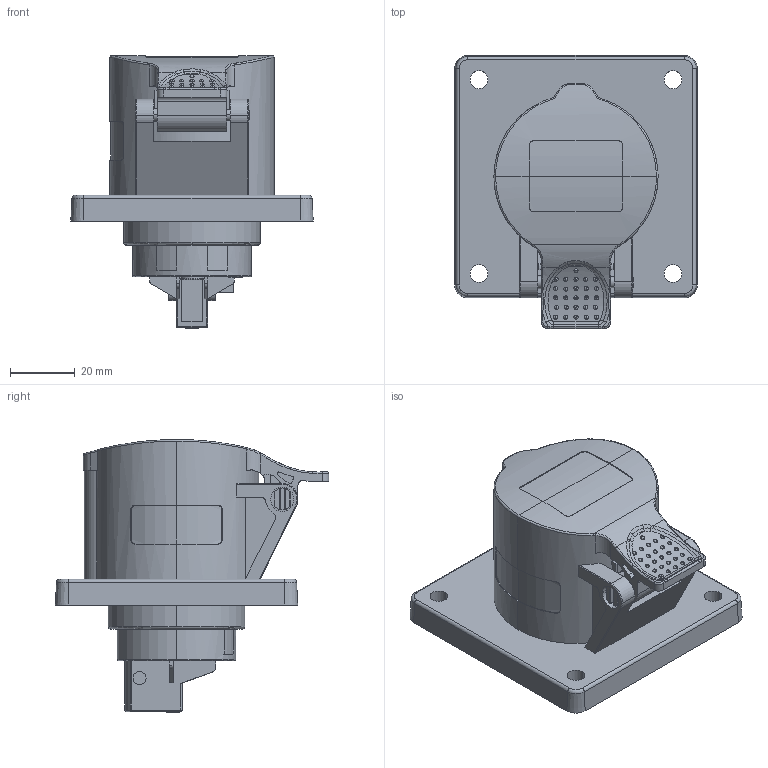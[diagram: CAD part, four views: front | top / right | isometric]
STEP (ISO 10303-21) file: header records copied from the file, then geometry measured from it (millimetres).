
FILE_DESCRIPTION (( 'STEP AP203' ), '1' );
FILE_NAME ('DIS4221663 (PSS 3p 16ﾀ 230ﾂ IP44).STEP', '2024-09-03T08:20:11', ( '' ), ( '' ), 'SwSTEP 2.0', 'SolidWorks 2022', '' );
FILE_SCHEMA (( 'CONFIG_CONTROL_DESIGN' ));
Length unit declared in the file: millimetre
Products named in the file (1): DIS4221663 (PSS 3p 16А 230В IP44)
Bounding box: 75 x 84.55 x 84.45 mm (x, y, z)
Volume: 160484.8 mm3; surface area: 30156 mm2
Topology: 1 solids, 1 shells, 630 faces, 1606 edges, 1034 vertices
Faces by surface type: cylinder 236, plane 225, bspline 87, sphere 34, torus 31, cone 17
Entity records: 35260 total; most frequent: CARTESIAN_POINT 20601, ORIENTED_EDGE 3202, DIRECTION 2757, EDGE_CURVE 1601, VERTEX_POINT 1032, AXIS2_PLACEMENT_3D 1019, LINE 719, VECTOR 719
